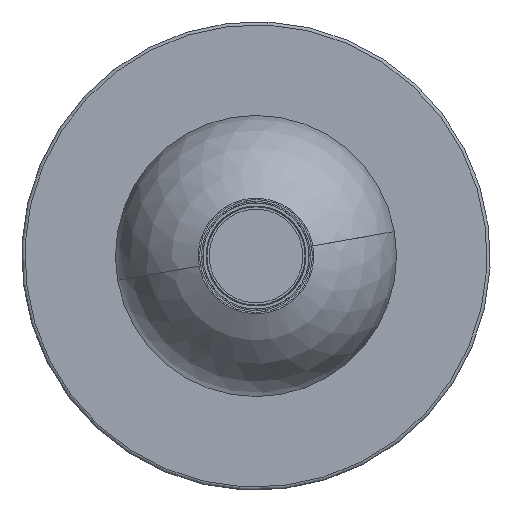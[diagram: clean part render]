
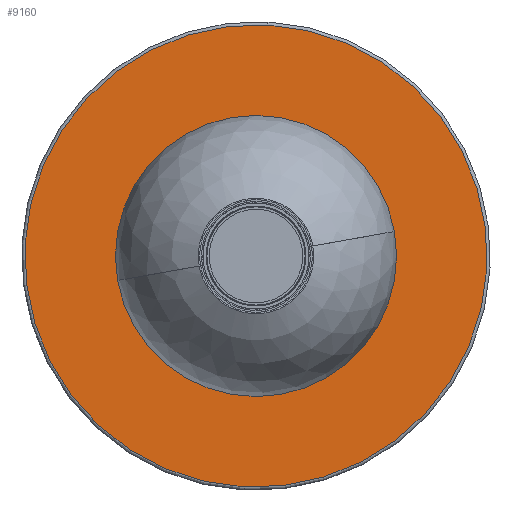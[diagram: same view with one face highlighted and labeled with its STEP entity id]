
A CAD part, front view. The second image highlights one B-rep face of the part: STEP entity #9160.
In plain terms, the highlighted planar face has unit normal (0, -1, 0).
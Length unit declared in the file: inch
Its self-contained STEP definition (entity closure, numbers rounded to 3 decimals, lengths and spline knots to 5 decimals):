
#1038 = FACE_OUTER_BOUND ( 'NONE', #3407, .T. ) ;
#1381 = DIRECTION ( 'NONE',  ( 0., -1., 0. ) ) ;
#1761 = CARTESIAN_POINT ( 'NONE',  ( 0., -5.65667, 0. ) ) ;
#2208 = AXIS2_PLACEMENT_3D ( 'NONE', #6312, #6444, #10170 ) ;
#3407 = EDGE_LOOP ( 'NONE', ( #18936, #24338 ) ) ;
#5361 = CARTESIAN_POINT ( 'NONE',  ( 0.06451, -5.65667, 1.25819 ) ) ;
#5374 = FACE_BOUND ( 'NONE', #14674, .T. ) ;
#6040 = EDGE_CURVE ( 'NONE', #9533, #24824, #10378, .T. ) ;
#6312 = CARTESIAN_POINT ( 'NONE',  ( 0., -5.65667, 0. ) ) ;
#6444 = DIRECTION ( 'NONE',  ( 0., -1., 0. ) ) ;
#9160 = ADVANCED_FACE ( 'NONE', ( #5374, #1038 ), #16918, .F. ) ;
#9175 = DIRECTION ( 'NONE',  ( 0.051, 0., 0.999 ) ) ;
#9213 = DIRECTION ( 'NONE',  ( 0.999, 0., -0.051 ) ) ;
#9428 = DIRECTION ( 'NONE',  ( 0.051, 0., 0.999 ) ) ;
#9533 = VERTEX_POINT ( 'NONE', #17925 ) ;
#10170 = DIRECTION ( 'NONE',  ( 0.051, 0., 0.999 ) ) ;
#10378 = CIRCLE ( 'NONE', #2208, 5.82677 ) ;
#11295 = AXIS2_PLACEMENT_3D ( 'NONE', #17132, #13150, #9428 ) ;
#12643 = EDGE_CURVE ( 'NONE', #13548, #21015, #19075, .T. ) ;
#13150 = DIRECTION ( 'NONE',  ( 0., 1., 0. ) ) ;
#13428 = CARTESIAN_POINT ( 'NONE',  ( -0.29837, -5.65667, -5.81913 ) ) ;
#13548 = VERTEX_POINT ( 'NONE', #5361 ) ;
#14674 = EDGE_LOOP ( 'NONE', ( #21716, #20323 ) ) ;
#14871 = DIRECTION ( 'NONE',  ( 0., 1., 0. ) ) ;
#15468 = EDGE_CURVE ( 'NONE', #21015, #13548, #15881, .T. ) ;
#15881 = CIRCLE ( 'NONE', #20377, 1.25984 ) ;
#16918 = PLANE ( 'NONE',  #20246 ) ;
#17122 = CIRCLE ( 'NONE', #21209, 5.82677 ) ;
#17132 = CARTESIAN_POINT ( 'NONE',  ( 0., -5.65667, 0. ) ) ;
#17925 = CARTESIAN_POINT ( 'NONE',  ( 0.29837, -5.65667, 5.81913 ) ) ;
#18930 = CARTESIAN_POINT ( 'NONE',  ( 0., -5.65667, 0. ) ) ;
#18936 = ORIENTED_EDGE ( 'NONE', *, *, #6040, .T. ) ;
#19075 = CIRCLE ( 'NONE', #11295, 1.25984 ) ;
#19714 = EDGE_CURVE ( 'NONE', #24824, #9533, #17122, .T. ) ;
#20246 = AXIS2_PLACEMENT_3D ( 'NONE', #22816, #14871, #9213 ) ;
#20323 = ORIENTED_EDGE ( 'NONE', *, *, #12643, .T. ) ;
#20377 = AXIS2_PLACEMENT_3D ( 'NONE', #1761, #20980, #21361 ) ;
#20980 = DIRECTION ( 'NONE',  ( 0., 1., 0. ) ) ;
#21015 = VERTEX_POINT ( 'NONE', #23992 ) ;
#21209 = AXIS2_PLACEMENT_3D ( 'NONE', #18930, #1381, #9175 ) ;
#21361 = DIRECTION ( 'NONE',  ( 0.051, 0., 0.999 ) ) ;
#21716 = ORIENTED_EDGE ( 'NONE', *, *, #15468, .T. ) ;
#22816 = CARTESIAN_POINT ( 'NONE',  ( 0., -5.65667, 0. ) ) ;
#23992 = CARTESIAN_POINT ( 'NONE',  ( -0.06451, -5.65667, -1.25819 ) ) ;
#24338 = ORIENTED_EDGE ( 'NONE', *, *, #19714, .T. ) ;
#24824 = VERTEX_POINT ( 'NONE', #13428 ) ;
